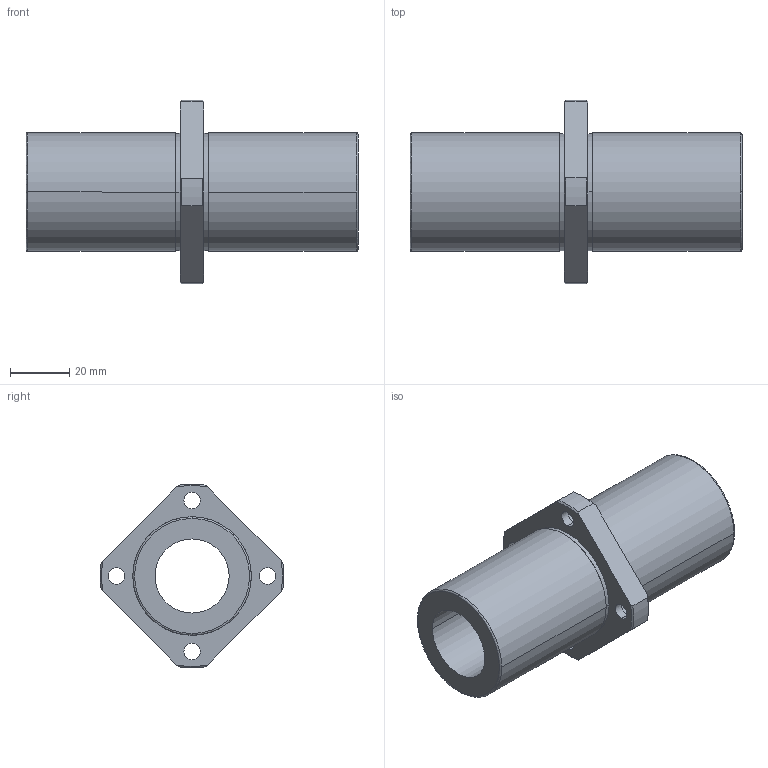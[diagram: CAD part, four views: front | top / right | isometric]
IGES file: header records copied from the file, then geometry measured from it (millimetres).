
Start section: 3D InterOp IGES (Version 21 0 1), Spatial Corp. Copyright (c) 1999-2007.
Global section: file name: NFCS-25VLUU.igs; native system: Spatial Corp.; preprocessor: 3D InterOp GENERIC/IGES 3.0; author: Noname; organization: Noname; date: 20220308.133538; units: millimetre
Bounding box: 112 x 61.96 x 61.92 mm (x, y, z)
Surface area: 27817.5 mm2 (no closed solid volume)
Topology: 0 solids, 0 shells, 59 faces, 292 edges, 292 vertices
Faces by surface type: revolution 45, extrusion 14
